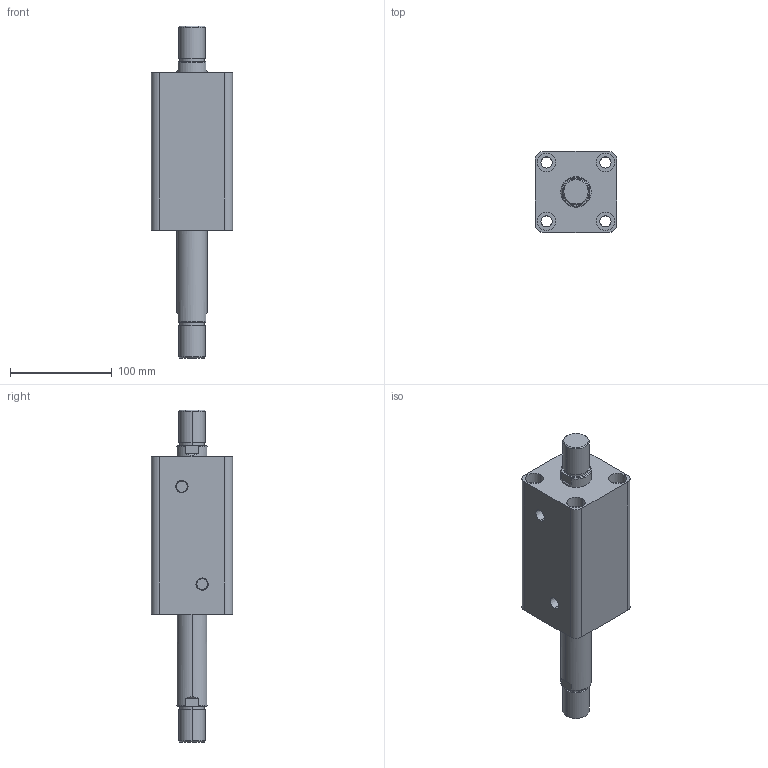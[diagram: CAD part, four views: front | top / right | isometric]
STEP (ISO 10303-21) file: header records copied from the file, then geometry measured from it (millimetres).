
FILE_DESCRIPTION (( 'STEP AP203' ), '1' );
FILE_NAME ('HTB-SW50-80W.STEP', '2019-10-07T09:24:17', ( '微软用户' ), ( '微软中国' ), 'SwSTEP 2.0', 'SolidWorks 2012', '' );
FILE_SCHEMA (( 'CONFIG_CONTROL_DESIGN' ));
Length unit declared in the file: millimetre
Products named in the file (3): HTB-SW50-80W; HTB-SW50-80W活塞杆; HTB-SW50-80掛极
Assembly tree (2 placements, depth 2):
  HTB-SW50-80W
    HTB-SW50-80掛极
    HTB-SW50-80W活塞杆
Bounding box: 80 x 80 x 327 mm (x, y, z)
Volume: 916173.7 mm3; surface area: 140753.1 mm2
Topology: 2 solids, 2 shells, 108 faces, 240 edges, 156 vertices
Faces by surface type: cylinder 52, plane 36, torus 12, cone 8
Entity records: 3449 total; most frequent: CARTESIAN_POINT 629, DIRECTION 586, ORIENTED_EDGE 480, AXIS2_PLACEMENT_3D 249, EDGE_CURVE 240, VERTEX_POINT 156, EDGE_LOOP 138, CIRCLE 136
